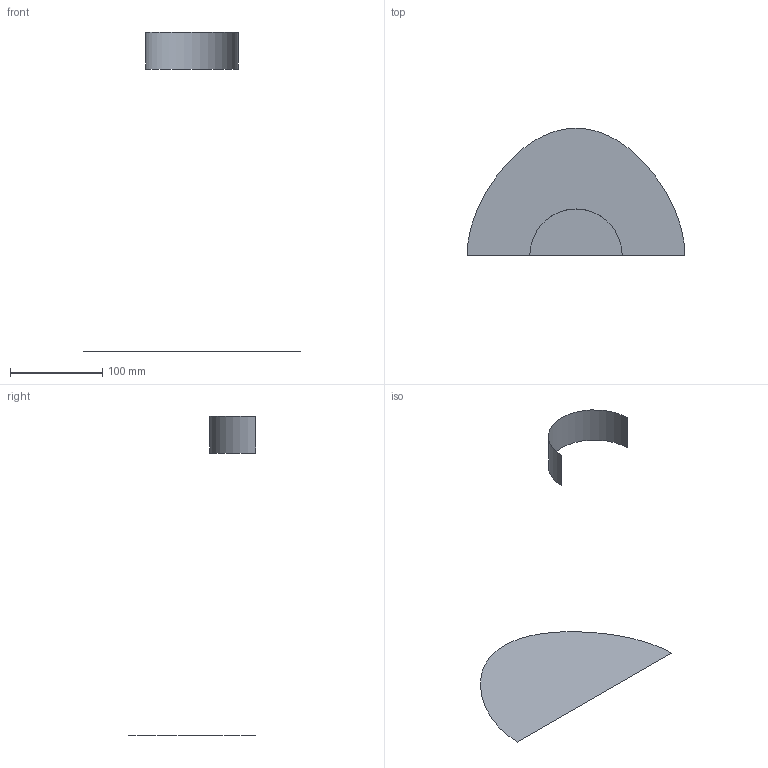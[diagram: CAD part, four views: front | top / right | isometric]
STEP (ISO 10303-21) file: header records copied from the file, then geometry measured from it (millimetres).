
FILE_DESCRIPTION(('CATIA V5 STEP Exchange'),'2;1');
FILE_NAME('C:\_Andres\UNIVERSIDAD\IQS\ASIGNATURAS\DAO\Controles\1617\c1\1original\Ribera_Armengol_Ej00-base_v28.stp','2017-02-06T16:27:52+00:00',('none'),('none'),'CATIA Version 5-6 Release 2014 SP1 HF18','CATIA V5 STEP AP203','none');
FILE_SCHEMA(('CONFIG_CONTROL_DESIGN'));
Length unit declared in the file: millimetre
Products named in the file (1): Ribera_Armengol_Ej00-base_v28
Bounding box: 236 x 138 x 346 mm (x, y, z)
Surface area: 30796.9 mm2 (no closed solid volume)
Topology: 0 solids, 2 shells, 2 faces, 16 edges, 26 vertices
Faces by surface type: cylinder 1, plane 1
Entity records: 230 total; most frequent: CARTESIAN_POINT 78, DIRECTION 16, COMPOSITE_CURVE_SEGMENT 9, TRIMMED_CURVE 9, AXIS2_PLACEMENT_3D 8, COMPOSITE_CURVE 7, ORIENTED_EDGE 7, EDGE_CURVE 7
